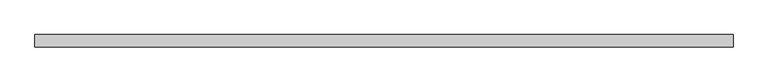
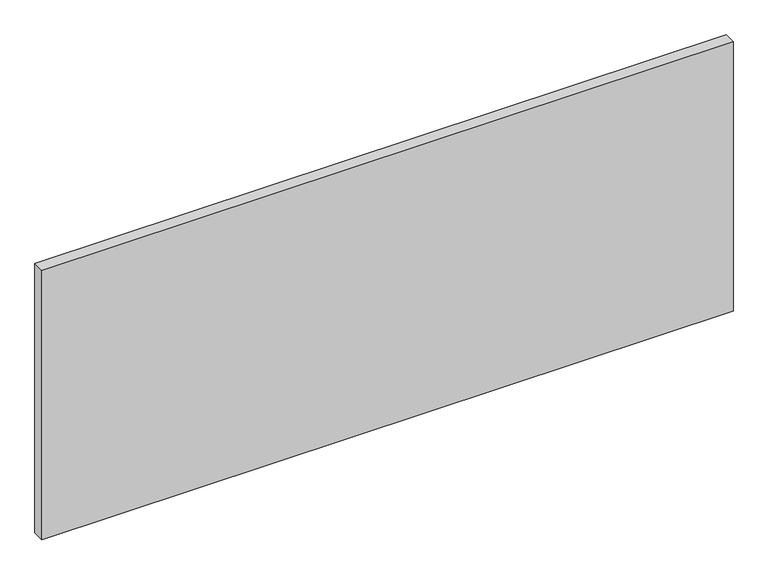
"""IFC4 building model written with IfcOpenShell, lengths in millimetres: plate geometry, 系统嵌板 : 玻璃."""

from ifc_helpers import new_model, si_unit, origin, origin_with_axes, place, context, project, spatial, polyline, outline, extrude, source, transform, mapped, element, save


def plate_0f107c01(model_context):
    return source(origin(), model_context, "Body", "SweptSolid", [
        extrude(outline(polyline([(715.7928775, -12.5), (-715.7928775, -12.5), (-715.7928775, 12.5), (715.7928775, 12.5), (715.7928775, -12.5)])), origin_with_axes(), (0.0, 0.0, 1.0), 590.0),
    ])


if __name__ == "__main__":
    model = new_model("IFC4")
    model_context = context("Model", 3, world=origin())
    ifc_project = project(units=[si_unit("LENGTHUNIT", "METRE", prefix="MILLI")], contexts=[model_context])
    site = spatial("IfcSite", under=ifc_project)
    building = spatial("IfcBuilding", under=site)
    placement = place(None, origin())
    plate_shape = plate_0f107c01(model_context)
    element("IfcPlate", 1, ObjectType="系统嵌板 : 玻璃", at=placement, inside=building, context=model_context, shape_type="MappedRepresentation", body=[
        mapped(plate_shape, transform((0.0, 0.0, 0.0), x_axis=(1.0, 0.0, 0.0), y_axis=(0.0, 1.0, 0.0), z_axis=(0.0, 0.0, 1.0))),
    ])
    save(model, "model.ifc")
